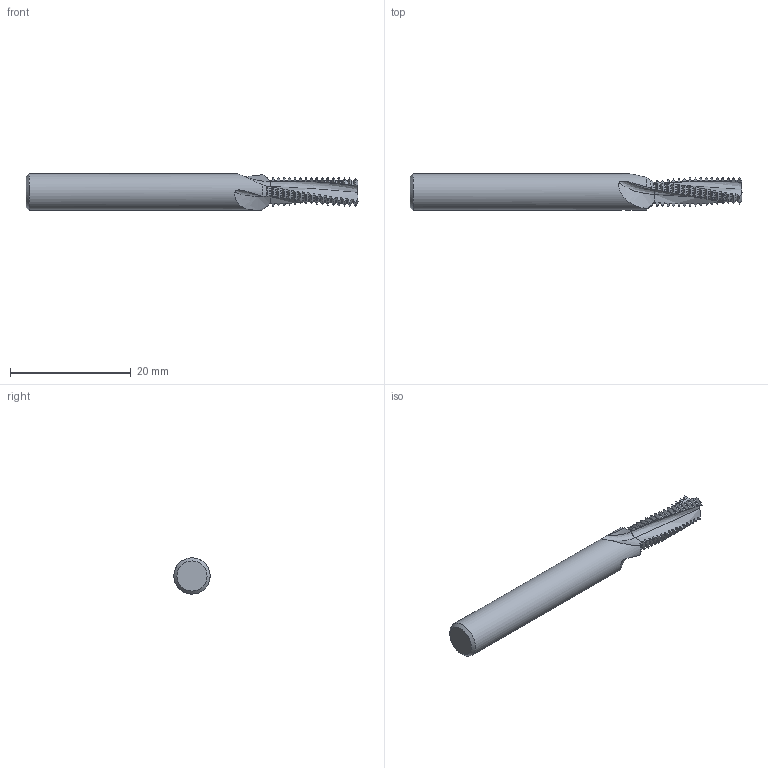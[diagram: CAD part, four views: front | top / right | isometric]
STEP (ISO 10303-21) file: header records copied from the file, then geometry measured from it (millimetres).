
FILE_DESCRIPTION(/* description */ (''),/* implementation_level */ '2;1');
FILE_NAME(/* name */ '00032654-STEP',/* time_stamp */ '2024-02-20T14:48:31+01:00',/* author */ (''),/* organization */ (''),/* preprocessor_version */ 'ST-DEVELOPER v16.5',/* originating_system */ 'HiCAD 2017 2201.0 Build 268',/* authorisation */ '');
FILE_SCHEMA (('AUTOMOTIVE_DESIGN { 1 0 10303 214 1 1 1 1 }'));
Length unit declared in the file: millimetre
Products named in the file (2): Root; ROTATIONSTEIL_0
Assembly tree (1 placements, depth 2):
  Root
    ROTATIONSTEIL_0
Bounding box: 55 x 6 x 6 mm (x, y, z)
Volume: 1192.5 mm3; surface area: 1039.3 mm2
Topology: 1 solids, 1 shells, 322 faces, 1054 edges, 734 vertices
Faces by surface type: torus 147, cone 103, cylinder 52, bspline 18, plane 2
Full cylindrical faces by diameter (mm): 6 x1
Entity records: 35650 total; most frequent: CARTESIAN_POINT 17834, PRESENTATION_STYLE_ASSIGNMENT 2099, COLOUR_RGB 2099, DRAUGHTING_PRE_DEFINED_CURVE_FONT 2098, CURVE_STYLE 2098, OVER_RIDING_STYLED_ITEM 2098, ORIENTED_EDGE 2098, DIRECTION 1222
